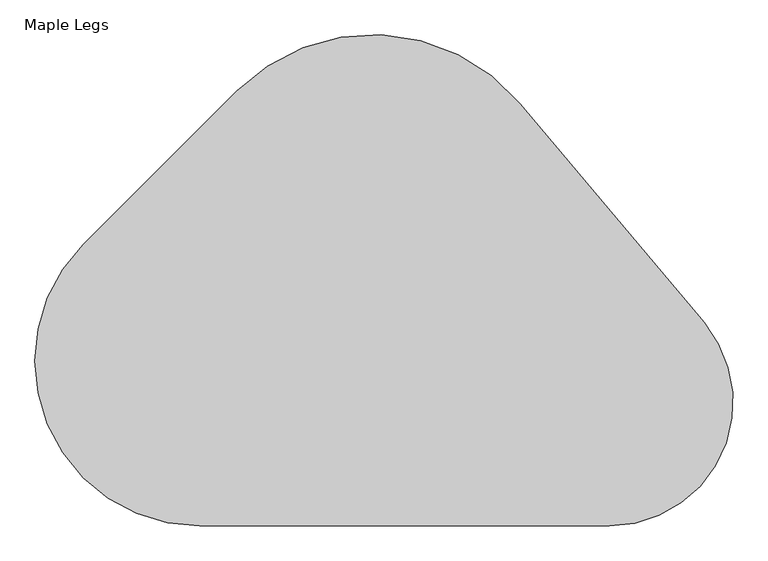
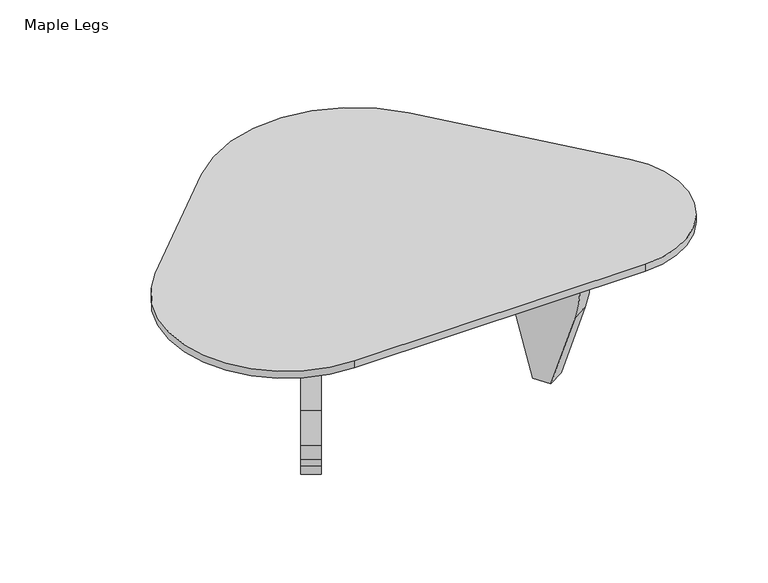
"""IFC4 building model written with IfcOpenShell, lengths in millimetres: furniture geometry, Noguchi Table : Maple Legs."""

from ifc_helpers import new_model, si_unit, point, frame, frame_2d, origin, place, context, project, spatial, polyline, circle_curve, trimmed, segment, composite_curve, outline, extrude, source, transform, mapped, element, save


def maple_legs_1e4ba76a(model_context):
    return source(origin(), model_context, "Body", "SweptSolid", [
        extrude(outline(composite_curve([segment(polyline([(-616.1982593, 166.2408792), (-332.9683375, 449.470801)]), True, "CONTINUOUS"), segment(trimmed(circle_curve(frame_2d((-81.5211661, 198.0236296)), 355.6), [point((-332.9683375, 449.470801))], [point((190.8842378, 426.5989036))], False, "CARTESIAN"), True, "CONTINUOUS"), segment(polyline([(190.8842378, 426.5989036), (530.8395157, 21.4559798)]), True, "CONTINUOUS"), segment(trimmed(circle_curve(frame_2d((355.721756, -125.4852677)), 228.6), [point((530.8395157, 21.4559798))], [point((355.721756, -354.0852677))], False, "CARTESIAN"), True, "CONTINUOUS"), segment(polyline([(355.721756, -354.0852677), (-400.6721124, -354.0852677)]), True, "CONTINUOUS"), segment(trimmed(circle_curve(frame_2d((-400.6721124, -49.2852677)), 304.8), [point((-400.6721124, -354.0852677))], [point((-616.1982593, 166.2408792))], False, "CARTESIAN"), True, "CONTINUOUS")], self_intersect=False)), frame((0.0, 0.0, 387.35), z_axis=(0.0, 0.0, 1.0), x_axis=(1.0, 0.0, 0.0)), (0.0, 0.0, 1.0), 19.05),
        extrude(outline(composite_curve([segment(trimmed(circle_curve(frame_2d((0.0, -292.1)), 292.1), [point((-85.401775, -12.7633808))], [point((0.0, 0.0))], False, "CARTESIAN"), True, "CONTINUOUS"), segment(polyline([(0.0, 0.0), (38.515049, 0.0)]), True, "CONTINUOUS"), segment(trimmed(circle_curve(frame_2d((38.515049, -44.45)), 44.45), [point((38.515049, 0.0))], [point((60.740049, -5.9551709))], False, "CARTESIAN"), True, "CONTINUOUS"), segment(polyline([(60.740049, -5.9551709), (99.9621328, -28.6000515), (99.9621328, -759.2112915), (61.6824096, -776.3453752)]), True, "CONTINUOUS"), segment(trimmed(circle_curve(frame_2d((46.368836, -742.1329034)), 37.4833132), [point((61.6824096, -776.3453752))], [point((46.368836, -779.6162166))], False, "CARTESIAN"), True, "CONTINUOUS"), segment(polyline([(46.368836, -779.6162166), (25.3127237, -779.6162166)]), True, "CONTINUOUS"), segment(trimmed(circle_curve(frame_2d((25.3127237, -684.3662165)), 95.25), [point((25.3127237, -779.6162166))], [point((-29.3204318, -762.3904488))], False, "CARTESIAN"), True, "CONTINUOUS"), segment(polyline([(-29.3204318, -762.3904488), (-93.5973313, -717.3832793), (-93.5973313, -679.2832792), (-37.9691113, -612.9881482)]), True, "CONTINUOUS"), segment(trimmed(circle_curve(frame_2d((-149.8499022, -519.1090178)), 146.05), [point((-37.9691113, -612.9881482))], [point((-3.7999022, -519.1090178))], True, "CARTESIAN"), True, "CONTINUOUS"), segment(polyline([(-3.7999022, -519.1090178), (-3.7999022, -289.2152929)]), True, "CONTINUOUS"), segment(trimmed(circle_curve(frame_2d((-124.4499022, -289.2152929)), 120.65), [point((-3.7999022, -289.2152929))], [point((-93.2233844, -172.6763419))], True, "CARTESIAN"), True, "CONTINUOUS"), segment(polyline([(-93.2233844, -172.6763419), (-287.3878672, -120.6501256), (-287.3878672, -74.5167265), (-85.401775, -12.7633808)]), True, "CONTINUOUS")], self_intersect=False)), frame((267.2461488, -214.3653004, 287.3878672), z_axis=(0.8480480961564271, 0.5299192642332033, 0.0), x_axis=(0.0, 0.0, 1.0)), (0.0, 0.0, 1.0), 48.5804754),
        extrude(outline(composite_curve([segment(trimmed(circle_curve(frame_2d((0.0, -292.1)), 292.1), [point((85.401775, -571.4366192))], [point((0.0, -584.2))], False, "CARTESIAN"), True, "CONTINUOUS"), segment(polyline([(0.0, -584.2), (-38.515049, -584.2)]), True, "CONTINUOUS"), segment(trimmed(circle_curve(frame_2d((-38.515049, -539.75)), 44.45), [point((-38.515049, -584.2))], [point((-60.740049, -578.2448292))], False, "CARTESIAN"), True, "CONTINUOUS"), segment(polyline([(-60.740049, -578.2448292), (-99.9621328, -555.5999486), (-99.9621328, 175.0112914), (-61.6824096, 192.1453752)]), True, "CONTINUOUS"), segment(trimmed(circle_curve(frame_2d((-46.368836, 157.9329033)), 37.4833132), [point((-61.6824096, 192.1453752))], [point((-46.368836, 195.4162165))], False, "CARTESIAN"), True, "CONTINUOUS"), segment(polyline([(-46.368836, 195.4162165), (-25.3127237, 195.4162165)]), True, "CONTINUOUS"), segment(trimmed(circle_curve(frame_2d((-25.3127237, 100.1662165)), 95.25), [point((-25.3127237, 195.4162165))], [point((29.3204318, 178.1904487))], False, "CARTESIAN"), True, "CONTINUOUS"), segment(polyline([(29.3204318, 178.1904487), (93.5973313, 133.1832792), (93.5973313, 95.0832791), (37.9691113, 28.7881481)]), True, "CONTINUOUS"), segment(trimmed(circle_curve(frame_2d((149.8499022, -65.0909823)), 146.05), [point((37.9691113, 28.7881481))], [point((3.7999022, -65.0909823))], True, "CARTESIAN"), True, "CONTINUOUS"), segment(polyline([(3.7999022, -65.0909823), (3.7999022, -291.9391371)]), True, "CONTINUOUS"), segment(trimmed(circle_curve(frame_2d((124.4499022, -291.9391371)), 120.65), [point((3.7999022, -291.9391371))], [point((93.2233844, -408.4780881))], True, "CARTESIAN"), True, "CONTINUOUS"), segment(polyline([(93.2233844, -408.4780881), (287.3878672, -460.5043044), (287.3878672, -509.6832736), (85.401775, -571.4366192)]), True, "CONTINUOUS")], self_intersect=False)), frame((-118.8687691, 281.4236, 99.9621328), z_axis=(-0.8660254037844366, 0.5000000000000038, 0.0), x_axis=(0.0, 0.0, 1.0)), (0.0, 0.0, 1.0), 46.6647559),
    ])


if __name__ == "__main__":
    model = new_model("IFC4")
    model_context = context("Model", 3, world=origin())
    ifc_project = project(units=[si_unit("LENGTHUNIT", "METRE", prefix="MILLI")], contexts=[model_context])
    site = spatial("IfcSite", under=ifc_project)
    building = spatial("IfcBuilding", under=site)
    placement = place(None, origin())
    maple_legs_shape = maple_legs_1e4ba76a(model_context)
    element("IfcFurniture", 1, ObjectType="Noguchi Table : Maple Legs", at=placement, inside=building, context=model_context, shape_type="MappedRepresentation", body=[
        mapped(maple_legs_shape, transform((0.0, 0.0, 0.0), x_axis=(1.0, 0.0, 0.0), y_axis=(0.0, 1.0, 0.0), z_axis=(0.0, 0.0, 1.0))),
    ])
    save(model, "model.ifc")
